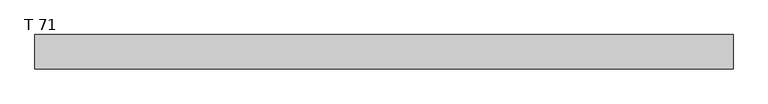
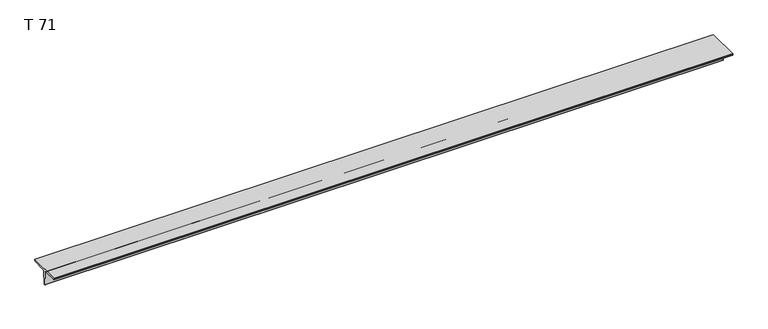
"""IFC4 building model written with IfcOpenShell, lengths in millimetres: beam geometry, T - T estructurales : T 71."""

from ifc_helpers import new_model, si_unit, point, frame, frame_2d, origin, place, context, project, spatial, polyline, circle_curve, trimmed, segment, composite_curve, outline, extrude, source, transform, mapped, element, save


def t_71_c9433b69(model_context):
    return source(origin(), model_context, "Body", "SweptSolid", [
        extrude(outline(composite_curve([segment(polyline([(75.0, 19.4), (75.0, 16.0707999)]), True, "CONTINUOUS"), segment(trimmed(circle_curve(frame_2d((71.0, 16.0707999)), 4.0), [point((75.0, 16.0707999))], [point((71.079984, 12.0715997))], False, "CARTESIAN"), True, "CONTINUOUS"), segment(polyline([(71.079984, 12.0715997), (12.2615684, 10.8952314)]), True, "CONTINUOUS"), segment(trimmed(circle_curve(frame_2d((12.4215365, 2.8968309)), 8.0), [point((12.2615684, 10.8952314))], [point((4.423136, 3.0567989))], True, "CARTESIAN"), True, "CONTINUOUS"), segment(polyline([(4.423136, 3.0567989), (3.2892002, -53.639992)]), True, "CONTINUOUS"), segment(trimmed(circle_curve(frame_2d((1.2896, -53.6)), 2.0), [point((3.2892002, -53.639992))], [point((1.2896, -55.6))], False, "CARTESIAN"), True, "CONTINUOUS"), segment(polyline([(1.2896, -55.6), (-1.2896, -55.6)]), True, "CONTINUOUS"), segment(trimmed(circle_curve(frame_2d((-1.2896, -53.6)), 2.0), [point((-1.2896, -55.6))], [point((-3.2892002, -53.639992))], False, "CARTESIAN"), True, "CONTINUOUS"), segment(polyline([(-3.2892002, -53.639992), (-4.423136, 3.0567989)]), True, "CONTINUOUS"), segment(trimmed(circle_curve(frame_2d((-12.4215365, 2.8968309)), 8.0), [point((-4.423136, 3.0567989))], [point((-12.2615684, 10.8952314))], True, "CARTESIAN"), True, "CONTINUOUS"), segment(polyline([(-12.2615684, 10.8952314), (-71.079984, 12.0715997)]), True, "CONTINUOUS"), segment(trimmed(circle_curve(frame_2d((-71.0, 16.0707999)), 4.0), [point((-71.079984, 12.0715997))], [point((-75.0, 16.0707999))], False, "CARTESIAN"), True, "CONTINUOUS"), segment(polyline([(-75.0, 16.0707999), (-75.0, 19.4), (75.0, 19.4)]), True, "CONTINUOUS")], self_intersect=False)), frame((-1530.4913793, 0.0, 0.0), z_axis=(1.0, 0.0, 0.0), x_axis=(0.0, 1.0, 0.0)), (0.0, 0.0, 1.0), 3060.9827586),
    ])


if __name__ == "__main__":
    model = new_model("IFC4")
    model_context = context("Model", 3, world=origin())
    ifc_project = project(units=[si_unit("LENGTHUNIT", "METRE", prefix="MILLI")], contexts=[model_context])
    site = spatial("IfcSite", under=ifc_project)
    building = spatial("IfcBuilding", under=site)
    placement = place(None, origin())
    t_71_shape = t_71_c9433b69(model_context)
    element("IfcBeam", 1, ObjectType="T - T estructurales : T 71", at=placement, inside=building, context=model_context, shape_type="MappedRepresentation", body=[
        mapped(t_71_shape, transform((0.0, 0.0, 0.0), x_axis=(1.0, 0.0, 0.0), y_axis=(0.0, 1.0, 0.0), z_axis=(0.0, 0.0, 1.0))),
    ])
    save(model, "model.ifc")
